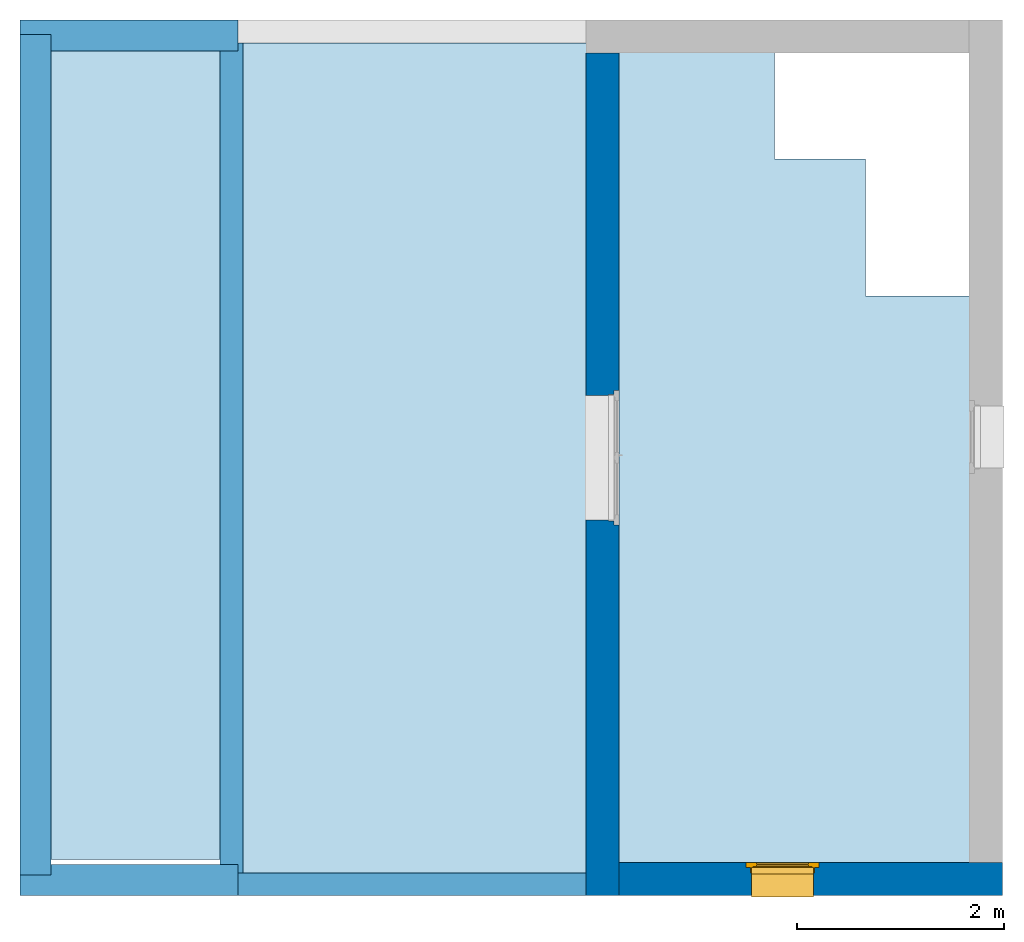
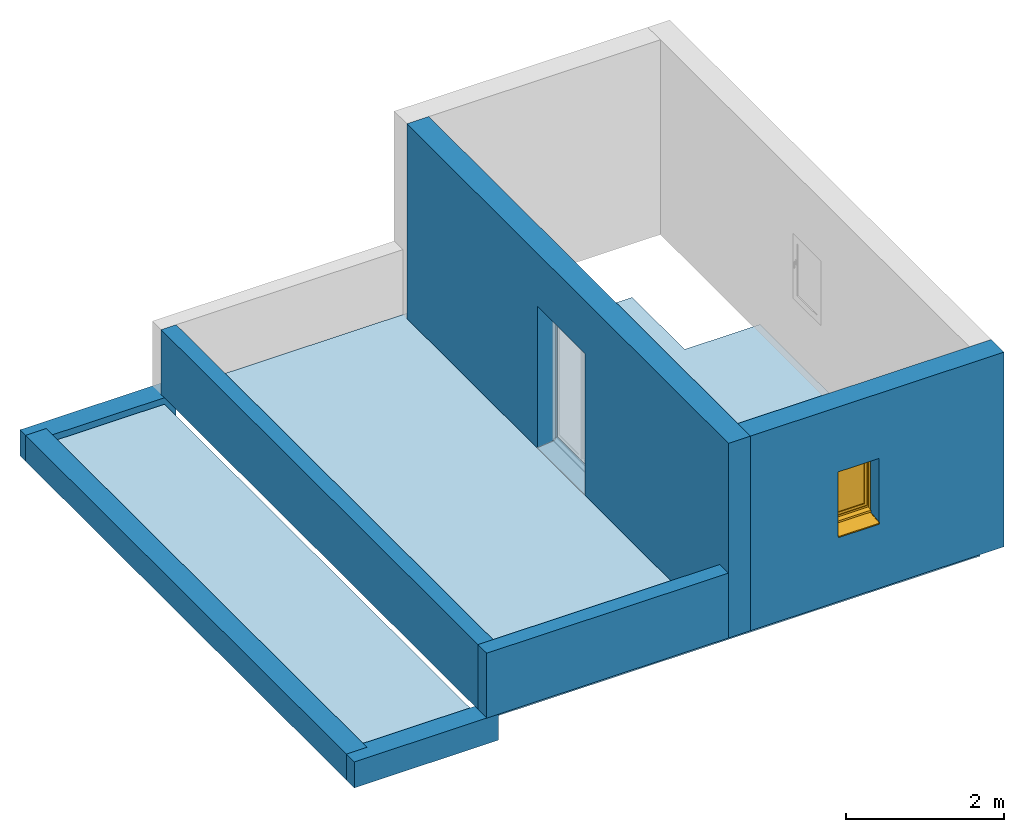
# One storey, part 1 of 3: 4 walls, 3 beams, 2 slabs, 1 window, 2 openings.
"""IFC2X3 building model written with IfcOpenShell, lengths in metres."""

from ifc_helpers import new_model, entity, si_unit, converted_unit, derived_unit, direction, frame, frame_2d, origin, place, context, subcontext, project, spatial, polyline, rectangle, outline, extrude, clip, bounded_halfspace, faceted_brep, source, transform, mapped, material, material_list, layer, layer_set, layer_usage, type_object, type_shapes, element, fill, save


model = new_model("IFC2X3")

# Units and contexts
model_context = context("Model", 3, precision=1e-05, world=origin(), true_north=direction((6.12303176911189e-17, 1.0)))
context_of_model = context(None, 3, precision=1e-05, world=origin(), true_north=direction((6.12303176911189e-17, 1.0)))
body_context = subcontext(model_context, "Body", "Model", "MODEL_VIEW")
ifc_project = project(units=[si_unit("LENGTHUNIT", "METRE"), si_unit("AREAUNIT", "SQUARE_METRE"), si_unit("VOLUMEUNIT", "CUBIC_METRE"), converted_unit("PLANEANGLEUNIT", "DEGREE", entity("IfcRatioMeasure", 0.0174532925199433), si_unit("PLANEANGLEUNIT", "RADIAN"), dimensions=[0, 0, 0, 0, 0, 0, 0]), si_unit("MASSUNIT", "GRAM", prefix="KILO"), si_unit("TIMEUNIT", "SECOND"), si_unit("FREQUENCYUNIT", "HERTZ"), si_unit("THERMODYNAMICTEMPERATUREUNIT", "DEGREE_CELSIUS"), derived_unit("THERMALTRANSMITTANCEUNIT", [(si_unit("MASSUNIT", "GRAM", prefix="KILO"), 1), (si_unit("THERMODYNAMICTEMPERATUREUNIT", "KELVIN"), -1), (si_unit("TIMEUNIT", "SECOND"), -3)]), derived_unit("VOLUMETRICFLOWRATEUNIT", [(si_unit("LENGTHUNIT", "METRE"), 3), (si_unit("TIMEUNIT", "SECOND"), -1)]), si_unit("ELECTRICCURRENTUNIT", "AMPERE"), si_unit("ELECTRICVOLTAGEUNIT", "VOLT"), si_unit("POWERUNIT", "WATT"), si_unit("FORCEUNIT", "NEWTON", prefix="KILO"), si_unit("ILLUMINANCEUNIT", "LUX"), si_unit("LUMINOUSFLUXUNIT", "LUMEN"), si_unit("LUMINOUSINTENSITYUNIT", "CANDELA"), si_unit("PRESSUREUNIT", "PASCAL")], contexts=[model_context, context_of_model])

# Site, building, storey
site_placement = place(None, origin())
site = spatial("IfcSite", under=ifc_project, at=site_placement, Name="Default", CompositionType="ELEMENT")
building_placement = place(site_placement, origin())
building = spatial("IfcBuilding", under=site, at=building_placement, CompositionType="ELEMENT")
storey_placement = place(building_placement, frame((0.0, 0.0, 3.0)))
storey = spatial("IfcBuildingStorey", under=building, at=storey_placement, Name="Niveau 1", CompositionType="ELEMENT", Elevation=2.99999999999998)

# Beams
ifc_material_1 = material(Name="Béton - Béton coulé sur place")
beam_1_placement = place(storey_placement, frame((-9.3024259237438, -3.07461312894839, 0.0), z_axis=(0.0, 0.0, 1.0), x_axis=(-1.0, 0.0, 0.0)))
element("IfcBeam", 1, at=beam_1_placement, inside=storey, material=ifc_material_1, Name="Poutre rectangulaire - Béton:300 x 600 mm", ObjectType="Poutre rectangulaire - Béton:300 x 600 mm", context=body_context, shape_type="Clipping", body=[
    clip(extrude(rectangle(XDim=0.4, YDim=0.3, at=frame_2d((0.0, 6.77236045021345e-15), x_axis=(1.0, 0.0))), frame((-0.0126999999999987, 0.0, -0.200000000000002), z_axis=(1.0, 0.0, 0.0), x_axis=(0.0, 0.0, -1.0)), (0.0, 0.0, 1.0), 2.1027), bounded_halfspace(frame((1.79, -0.199000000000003, -0.400000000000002), z_axis=(1.0, 0.0, 0.0), x_axis=(0.0, 1.0, 0.0)), False, frame((-0.0126999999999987, 0.0, -0.200000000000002), z_axis=(1.0, 0.0, 0.0), x_axis=(0.0, 0.0, -1.0)), polyline([(0.199999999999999, -0.0499999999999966), (-0.200000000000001, -0.0499999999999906), (-0.200000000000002, -0.149999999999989), (0.199999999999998, -0.149999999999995), (0.199999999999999, -0.0499999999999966)]))),
])
beam_2_placement = place(storey_placement, frame((-11.2424259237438, 5.06538687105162, 0.0)))
element("IfcBeam", 2, at=beam_2_placement, inside=storey, material=ifc_material_1, Name="Poutre rectangulaire - Béton:300 x 600 mm", ObjectType="Poutre rectangulaire - Béton:300 x 600 mm", context=body_context, shape_type="Clipping", body=[
    clip(extrude(rectangle(XDim=0.4, YDim=0.3, at=frame_2d((0.0, 7.03603841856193e-15), x_axis=(1.0, 0.0))), frame((-0.15, 0.0, -0.200000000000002), z_axis=(1.0, 0.0, 0.0), x_axis=(0.0, 0.0, -1.0)), (0.0, 0.0, 1.0), 2.1027), bounded_halfspace(frame((0.150000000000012, -7.941, -0.400000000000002), z_axis=(-1.0, 0.0, 0.0), x_axis=(0.0, -1.0, 0.0)), False, frame((-0.15, 0.0, -0.200000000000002), z_axis=(1.0, 0.0, 0.0), x_axis=(0.0, 0.0, -1.0)), polyline([(-0.2, 0.0100000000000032), (0.2, 0.00999999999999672), (0.199999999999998, -0.149999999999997), (-0.200000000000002, -0.149999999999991), (-0.2, 0.0100000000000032)]))),
])
beam_3_placement = place(storey_placement, frame((-11.2424259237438, 5.07538687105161, 0.0), z_axis=(0.0, 0.0, 1.0), x_axis=(0.0, -1.0, 0.0)))
element("IfcBeam", 3, at=beam_3_placement, inside=storey, material=ifc_material_1, Name="Poutre rectangulaire - Béton:300 x 600 mm", ObjectType="Poutre rectangulaire - Béton:300 x 600 mm", context=body_context, shape_type="SweptSolid", body=[
    extrude(rectangle(XDim=0.4, YDim=0.299999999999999, at=frame_2d((0.0, -1.08246744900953e-15), x_axis=(1.0, 0.0))), frame((0.0, 0.0, -0.200000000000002), z_axis=(1.0, 0.0, 0.0), x_axis=(0.0, 0.0, -1.0)), (0.0, 0.0, 1.0), 8.1),
])

# Slabs
ifc_material_2 = material(Name="Maçonnerie - Béton")
ifc_layer_1 = layer(ifc_material_2, 0.2)
ifc_layer_set_1 = layer_set([ifc_layer_1], Name="Sol:Dalle en béton - 250 mm 2")
ifc_layer_usage_1 = layer_usage(ifc_layer_set_1, "AXIS3", "POSITIVE", 0.0)
slab_1_placement = place(storey_placement, origin())
element("IfcSlab", 4, at=slab_1_placement, inside=storey, material=ifc_layer_usage_1, Name="Sol:Dalle en béton - 250 mm 2", ObjectType="Sol:Dalle en béton - 250 mm 2", PredefinedType="FLOOR", context=body_context, shape_type="SweptSolid", body=[
    extrude(rectangle(XDim=7.79999999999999, YDim=1.63000000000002, at=frame_2d((0.0, -3.77475828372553e-15), x_axis=(1.0, 0.0))), frame((-10.2774259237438, 1.02538687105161, -0.1), z_axis=(0.0, 0.0, -1.0), x_axis=(0.0, 1.0, 0.0)), (0.0, 0.0, 1.0), 0.2),
])
ifc_layer_usage_2 = layer_usage(ifc_layer_set_1, "AXIS3", "POSITIVE", 0.0)
slab_2_placement = place(storey_placement, origin())
element("IfcSlab", 5, at=slab_2_placement, inside=storey, material=ifc_layer_usage_2, Name="Sol:Dalle en béton - 250 mm 2", ObjectType="Sol:Dalle en béton - 250 mm 2", PredefinedType="FLOOR", context=body_context, shape_type="SweptSolid", body=[
    extrude(outline(polyline([(-5.10948805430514, -4.55613302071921), (2.89051194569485, -4.55613302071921), (2.89051194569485, 0.568399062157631), (1.77051194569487, 0.56839906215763), (1.77051194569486, 1.44386697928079), (0.448464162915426, 1.44386697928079), (0.448464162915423, 2.54386697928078), (-5.10948805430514, 2.54386697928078), (-5.10948805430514, -4.55613302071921)])), frame((-4.68629290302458, 2.10487492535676, 0.0), z_axis=(0.0, 0.0, -1.0), x_axis=(0.0, 1.0, 0.0)), (0.0, 0.0, 1.0), 0.2),
])

# Wall, opening, window
ifc_material_3 = material(Name="Maçonnerie - Enduit")
ifc_layer_2 = layer(ifc_material_3, 0.02)
ifc_material_4 = material(Name="Blocs béton manufacturés")
ifc_layer_3 = layer(ifc_material_4, 0.2)
ifc_material_5 = material(Name="Maçonnerie - Isolant")
ifc_layer_4 = layer(ifc_material_5, 0.1)
ifc_layer_set_2 = layer_set([ifc_layer_2, ifc_layer_3, ifc_layer_4], Name="Mur de base:Ext. Parpaing 20 + Isolant 10")
ifc_layer_usage_3 = layer_usage(ifc_layer_set_2, "AXIS2", "NEGATIVE", 0.16)
wall_type_1 = type_object("IfcWallType", Name="Mur de base:Ext. Parpaing 20 + Isolant 10", PredefinedType="NOTDEFINED")
wall_1_placement = place(storey_placement, frame((-1.9224259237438, -3.06461312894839, 0.0), z_axis=(0.0, 0.0, 1.0), x_axis=(-1.0, 0.0, 0.0)))
wall_1 = element("IfcWallStandardCase", 6, at=wall_1_placement, inside=storey, type_object=wall_type_1, material=ifc_layer_usage_3, Name="Mur de base:Ext. Parpaing 20 + Isolant 10", ObjectType="Mur de base:Ext. Parpaing 20 + Isolant 10", context=body_context, shape_type="SweptSolid", body=[
    extrude(rectangle(XDim=3.6957252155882, YDim=0.32, at=frame_2d((1.8478626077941, 0.0), x_axis=(-1.0, 0.0))), origin(), (0.0, 0.0, 1.0), 3.0),
])
opening_1_placement = place(wall_1_placement, frame((2.47, 0.5, 0.974039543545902), z_axis=(0.0, 0.0, 1.0), x_axis=(-1.0, 0.0, 0.0)))
opening_1 = element("IfcOpeningElement", 7, at=opening_1_placement, cuts=wall_1, Name="Mur de base:Ext. Parpaing 20 + Isolant 10", ObjectType="Opening", context=body_context, shape_type="Brep", body=[
    faceted_brep([(0.649999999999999, 0.580000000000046, 0.0759604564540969), (0.649999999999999, 0.559999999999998, 0.0759604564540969), (0.649999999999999, 0.559999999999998, 1.0259604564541), (0.649999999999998, 0.0, 1.0259604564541), (0.649999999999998, 0.0, 0.0), (0.649999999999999, 0.580000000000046, 0.060960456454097), (0.0500000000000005, 1.0, 0.0759604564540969), (0.05, 0.66, 0.0759604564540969), (0.05, 0.66, 1.0259604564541), (0.0500000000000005, 1.0, 1.0259604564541), (0.65, 1.0, 0.0759604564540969), (0.649999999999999, 0.66, 0.0759604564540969), (0.699999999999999, 0.66, 0.0759604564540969), (0.699999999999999, 0.610000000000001, 0.0759604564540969), (0.659999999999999, 0.610000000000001, 0.0759604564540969), (0.659999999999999, 0.559999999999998, 0.0759604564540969), (0.05, 0.580000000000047, 0.0759604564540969), (0.05, 0.559999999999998, 0.0759604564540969), (0.0399999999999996, 0.559999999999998, 0.0759604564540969), (0.0399999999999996, 0.610000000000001, 0.0759604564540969), (0.0, 0.610000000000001, 0.0759604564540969), (0.0, 0.66, 0.0759604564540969), (0.65, 1.0, 1.0259604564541), (0.05, 0.559999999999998, 1.0259604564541), (0.0499999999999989, 0.0, 1.0259604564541), (0.0499999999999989, 0.0, 0.0), (0.05, 0.580000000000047, 0.060960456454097), (0.699999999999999, 0.66, 1.0759604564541), (0.699999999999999, 0.610000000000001, 1.0759604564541), (0.0, 0.610000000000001, 1.0759604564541), (0.0399999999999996, 0.610000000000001, 1.0359604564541), (0.659999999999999, 0.610000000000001, 1.0359604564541), (0.659999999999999, 0.559999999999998, 1.0359604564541), (0.0399999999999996, 0.559999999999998, 1.0359604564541), (0.649999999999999, 0.66, 1.0259604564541), (0.0, 0.66, 1.0759604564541)], [[[0, 1, 2, 3, 4, 5]], [[6, 7, 8, 9]], [[10, 11, 12, 13, 14, 15, 1, 0, 16, 17, 18, 19, 20, 21, 7, 6]], [[10, 6, 9, 22]], [[3, 2, 23, 24]], [[3, 24, 25, 4]], [[4, 25, 26, 5]], [[5, 26, 16, 0]], [[12, 27, 28, 13]], [[13, 28, 29, 20, 19, 30, 31, 14]], [[14, 31, 32, 15]], [[15, 32, 33, 18, 17, 23, 2, 1]], [[11, 34, 8, 7, 21, 35, 27, 12]], [[27, 35, 29, 28]], [[30, 33, 32, 31]], [[29, 35, 21, 20]], [[19, 18, 33, 30]], [[9, 8, 34, 22]], [[24, 23, 17, 16, 26, 25]], [[22, 34, 11, 10]]]),
])
ifc_material_6 = material(Name="Fenêtre - Poignée")
ifc_material_7 = material(Name="Fenêtre - Appui")
ifc_material_8 = material(Name="Fenêtre - Vitrage")
ifc_material_9 = material(Name="Fenêtre - Cadre")
ifc_material_list_1 = material_list([ifc_material_6, ifc_material_7, ifc_material_8, ifc_material_9])
ifc_material_list_2 = material_list([ifc_material_6, ifc_material_7, ifc_material_8, ifc_material_9])
window_style = type_object("IfcWindowStyle", Name="0.60 m x 0.95 m - Appui en aluminium", ConstructionType="NOTDEFINED", OperationType="SINGLE_PANEL", ParameterTakesPrecedence=False, Sizeable=False, material=ifc_material_list_2)
shared_shape = source(origin(), body_context, "Body", "Brep", [
    faceted_brep([(0.0806460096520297, -0.66600000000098, 0.697994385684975), (0.08203392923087, -0.66600000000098, 0.696606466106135), (0.08203392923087, -0.66600000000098, 0.68529275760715), (0.0806676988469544, -0.66600000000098, 0.683926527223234), (0.0693323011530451, -0.66600000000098, 0.683926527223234), (0.0679660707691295, -0.66600000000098, 0.68529275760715), (0.0679660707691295, -0.66600000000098, 0.696606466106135), (0.0693539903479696, -0.66600000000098, 0.697994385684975), (0.0806460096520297, -0.678913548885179, 0.697994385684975), (0.08203392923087, -0.67833865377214, 0.696606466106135), (0.08203392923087, -0.69164600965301, 0.683299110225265), (0.08203392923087, -0.691646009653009, 0.595960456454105), (0.08203392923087, -0.680332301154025, 0.595960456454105), (0.08203392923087, -0.680332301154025, 0.67861281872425), (0.08203392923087, -0.673652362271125, 0.68529275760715), (0.0806676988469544, -0.673086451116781, 0.683926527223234), (0.0693323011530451, -0.673086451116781, 0.683926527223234), (0.0679660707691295, -0.673652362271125, 0.68529275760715), (0.0679660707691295, -0.680332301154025, 0.67861281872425), (0.0679660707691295, -0.680332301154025, 0.595960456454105), (0.0679660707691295, -0.691646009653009, 0.595960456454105), (0.0679660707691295, -0.69164600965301, 0.683299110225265), (0.0679660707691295, -0.67833865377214, 0.696606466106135), (0.0693539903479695, -0.678913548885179, 0.697994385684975), (0.0806460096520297, -0.69303392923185, 0.683874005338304), (0.0806676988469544, -0.678966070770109, 0.678046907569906), (0.0693323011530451, -0.678966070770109, 0.678046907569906), (0.0693539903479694, -0.69303392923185, 0.683874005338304), (0.0806460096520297, -0.69303392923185, 0.595960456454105), (0.0693539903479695, -0.69303392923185, 0.595960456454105), (0.0693323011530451, -0.678966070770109, 0.595960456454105), (0.0806676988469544, -0.678966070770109, 0.595960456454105)], [[[0, 1, 2, 3, 4, 5, 6, 7]], [[1, 0, 8, 9]], [[2, 1, 9, 10, 11, 12, 13, 14]], [[3, 2, 14, 15]], [[4, 3, 15, 16]], [[5, 4, 16, 17]], [[6, 5, 17, 18, 19, 20, 21, 22]], [[7, 6, 22, 23]], [[0, 7, 23, 8]], [[9, 8, 24, 10]], [[15, 14, 13, 25]], [[16, 15, 25, 26]], [[17, 16, 26, 18]], [[23, 22, 21, 27]], [[8, 23, 27, 24]], [[28, 29, 20, 19, 30, 31, 12, 11]], [[10, 24, 28, 11]], [[25, 13, 12, 31]], [[26, 25, 31, 30]], [[18, 26, 30, 19]], [[27, 21, 20, 29]], [[24, 27, 29, 28]]]),
    faceted_brep([(0.0820000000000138, -0.666000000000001, 0.715960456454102), (0.0679999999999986, -0.666000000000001, 0.715960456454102), (0.0629999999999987, -0.666000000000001, 0.710960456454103), (0.0629999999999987, -0.666000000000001, 0.640960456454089), (0.0679999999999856, -0.666000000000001, 0.635960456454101), (0.0820000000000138, -0.666000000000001, 0.635960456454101), (0.0869999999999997, -0.666000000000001, 0.640960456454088), (0.0869999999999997, -0.666000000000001, 0.710960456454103), (0.0820000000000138, -0.660000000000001, 0.715960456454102), (0.0869999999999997, -0.660000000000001, 0.710960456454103), (0.0869999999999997, -0.660000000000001, 0.640960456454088), (0.0820000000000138, -0.660000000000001, 0.635960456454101), (0.0679999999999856, -0.660000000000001, 0.635960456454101), (0.0629999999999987, -0.660000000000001, 0.640960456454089), (0.0629999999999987, -0.660000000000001, 0.710960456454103), (0.0679999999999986, -0.660000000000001, 0.715960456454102)], [[[0, 1, 2, 3, 4, 5, 6, 7]], [[8, 9, 10, 11, 12, 13, 14, 15]], [[1, 0, 8, 15]], [[2, 1, 15, 14]], [[3, 2, 14, 13]], [[4, 3, 13, 12]], [[5, 4, 12, 11]], [[6, 5, 11, 10]], [[7, 6, 10, 9]], [[0, 7, 9, 8]]]),
    faceted_brep([(0.649999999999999, -0.324999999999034, 0.0394140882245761), (0.649999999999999, -0.574999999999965, 0.0656901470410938), (0.649999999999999, -0.574999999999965, 0.0759604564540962), (0.649999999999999, -0.579999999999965, 0.0759604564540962), (0.649999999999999, -0.579999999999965, 0.0609604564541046), (0.649999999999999, -0.329999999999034, 0.0346843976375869), (0.649999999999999, -0.329999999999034, 0.0243838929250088), (0.649999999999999, -0.324999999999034, 0.0238583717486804), (0.0499999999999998, -0.324999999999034, 0.0394140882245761), (0.0499999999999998, -0.324999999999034, 0.0238583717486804), (0.0499999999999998, -0.329999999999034, 0.0243838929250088), (0.0499999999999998, -0.329999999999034, 0.0346843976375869), (0.0499999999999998, -0.579999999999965, 0.0609604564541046), (0.0499999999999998, -0.579999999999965, 0.0759604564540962), (0.0499999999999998, -0.574999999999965, 0.0759604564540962), (0.0499999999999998, -0.574999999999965, 0.0656901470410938)], [[[0, 1, 2, 3, 4, 5, 6, 7]], [[8, 9, 10, 11, 12, 13, 14, 15]], [[1, 0, 8, 15]], [[2, 1, 15, 14]], [[3, 2, 14, 13]], [[4, 3, 13, 12]], [[5, 4, 12, 11]], [[6, 5, 11, 10]], [[7, 6, 10, 9]], [[0, 7, 9, 8]]]),
    faceted_brep([(0.05, -0.324999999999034, 0.0408400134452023), (0.05, -0.324999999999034, 0.0394140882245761), (0.0499999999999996, -0.574999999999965, 0.0656901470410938), (0.0499999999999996, -0.574999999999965, 0.0707176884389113), (0.05, -0.328581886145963, 0.0448181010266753), (0.05, -0.326027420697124, 0.0435165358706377), (0.0549999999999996, -0.574999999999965, 0.0707176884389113), (0.0549999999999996, -0.574999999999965, 0.0656901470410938), (0.055, -0.324999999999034, 0.0394140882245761), (0.055, -0.324999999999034, 0.0408400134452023), (0.055, -0.326027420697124, 0.0435165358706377), (0.055, -0.328581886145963, 0.0448181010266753)], [[[0, 1, 2, 3, 4, 5]], [[6, 7, 8, 9, 10, 11]], [[2, 1, 8, 7]], [[3, 2, 7, 6]], [[4, 3, 6, 11]], [[4, 11, 10, 5]], [[10, 9, 0, 5]], [[1, 0, 9, 8]]]),
    faceted_brep([(0.645, -0.324999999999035, 0.0408400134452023), (0.645, -0.324999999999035, 0.0394140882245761), (0.644999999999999, -0.574999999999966, 0.0656901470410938), (0.644999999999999, -0.574999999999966, 0.0707176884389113), (0.645, -0.328581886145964, 0.0448181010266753), (0.645, -0.326027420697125, 0.0435165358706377), (0.649999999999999, -0.574999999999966, 0.0707176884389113), (0.649999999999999, -0.574999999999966, 0.0656901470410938), (0.65, -0.324999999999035, 0.0394140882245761), (0.65, -0.324999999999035, 0.0408400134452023), (0.65, -0.326027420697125, 0.0435165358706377), (0.65, -0.328581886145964, 0.0448181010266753)], [[[0, 1, 2, 3, 4, 5]], [[6, 7, 8, 9, 10, 11]], [[2, 1, 8, 7]], [[3, 2, 7, 6]], [[4, 3, 6, 11]], [[4, 11, 10, 5]], [[10, 9, 0, 5]], [[1, 0, 9, 8]]]),
    faceted_brep([(0.0999999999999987, -0.634000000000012, 0.175960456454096), (0.0999999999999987, -0.634000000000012, 0.975960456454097), (0.6, -0.634000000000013, 0.975960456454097), (0.6, -0.634000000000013, 0.175960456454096), (0.0999999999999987, -0.646000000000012, 0.175960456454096), (0.0999999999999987, -0.646000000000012, 0.975960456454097), (0.6, -0.646000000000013, 0.975960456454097), (0.6, -0.646000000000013, 0.175960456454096)], [[[0, 1, 2, 3]], [[1, 0, 4, 5]], [[3, 2, 6, 7]], [[0, 3, 7, 4]], [[4, 7, 6, 5]], [[2, 1, 5, 6]]]),
    faceted_brep([(0.099999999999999, -0.620000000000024, 0.975960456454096), (0.0999999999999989, -0.660000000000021, 0.975960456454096), (0.0999999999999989, -0.660000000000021, 0.175960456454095), (0.0999999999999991, -0.620000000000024, 0.175960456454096), (0.6, -0.660000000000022, 0.175960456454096), (0.6, -0.620000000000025, 0.175960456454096), (0.6, -0.660000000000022, 0.975960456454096), (0.649999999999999, -0.660000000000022, 0.125960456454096), (0.649999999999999, -0.660000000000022, 1.0259604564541), (0.0499999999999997, -0.660000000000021, 1.0259604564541), (0.0499999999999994, -0.660000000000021, 0.125960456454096), (0.6, -0.620000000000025, 0.975960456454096), (0.0499999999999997, -0.620000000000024, 0.125960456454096), (0.0499999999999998, -0.620000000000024, 1.0259604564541), (0.649999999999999, -0.620000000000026, 1.0259604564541), (0.649999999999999, -0.620000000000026, 0.125960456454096)], [[[0, 1, 2, 3]], [[3, 2, 4, 5]], [[2, 1, 6, 4], [7, 8, 9, 10]], [[5, 4, 6, 11]], [[5, 11, 0, 3], [12, 13, 14, 15]], [[9, 13, 12, 10]], [[10, 12, 15, 7]], [[7, 15, 14, 8]], [[11, 6, 1, 0]], [[8, 14, 13, 9]]], outer=[[True], [True], [False, True], [True], [False, True], [True], [True], [True], [True], [True]]),
    faceted_brep([(0.0, -0.660000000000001, 0.0759604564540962), (0.0, -0.610000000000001, 0.0759604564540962), (0.0499999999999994, -0.610000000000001, 0.0759604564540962), (0.0499999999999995, -0.560000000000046, 0.0759604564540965), (0.649999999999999, -0.560000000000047, 0.0759604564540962), (0.649999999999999, -0.610000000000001, 0.0759604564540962), (0.699999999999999, -0.610000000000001, 0.0759604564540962), (0.699999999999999, -0.660000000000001, 0.0759604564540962), (0.0, -0.660000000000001, 1.0759604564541), (0.0, -0.610000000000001, 1.0759604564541), (0.699999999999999, -0.610000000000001, 1.0759604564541), (0.649999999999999, -0.610000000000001, 0.1153365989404), (0.0499999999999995, -0.610000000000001, 0.115336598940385), (0.0649999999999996, -0.610000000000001, 1.0109604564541), (0.0649999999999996, -0.610000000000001, 0.140960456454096), (0.634999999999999, -0.610000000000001, 0.140960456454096), (0.634999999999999, -0.610000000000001, 1.0109604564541), (0.0499999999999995, -0.550000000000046, 0.0992596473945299), (0.0499999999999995, -0.550000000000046, 0.0709604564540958), (0.0499999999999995, -0.560000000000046, 0.0709604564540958), (0.649999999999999, -0.560000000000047, 0.0709604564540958), (0.649999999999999, -0.550000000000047, 0.0709604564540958), (0.649999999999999, -0.550000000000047, 0.0992596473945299), (0.699999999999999, -0.660000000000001, 1.0759604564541), (0.649999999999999, -0.660000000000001, 1.0259604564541), (0.649999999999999, -0.660000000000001, 0.125960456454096), (0.0499999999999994, -0.66, 0.125960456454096), (0.0499999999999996, -0.660000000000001, 1.0259604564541), (0.0649999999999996, -0.620000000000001, 1.0109604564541), (0.0649999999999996, -0.620000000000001, 0.140960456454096), (0.634999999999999, -0.620000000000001, 0.140960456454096), (0.634999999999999, -0.620000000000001, 1.0109604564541), (0.649999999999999, -0.620000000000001, 1.0259604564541), (0.0499999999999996, -0.620000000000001, 1.0259604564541), (0.0499999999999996, -0.620000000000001, 0.125960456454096), (0.649999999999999, -0.620000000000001, 0.125960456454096)], [[[0, 1, 2, 3, 4, 5, 6, 7]], [[1, 0, 8, 9]], [[1, 9, 10, 6, 5, 11, 12, 2], [13, 14, 15, 16]], [[12, 17, 18, 19, 3, 2]], [[3, 19, 20, 4]], [[4, 20, 21, 22, 11, 5]], [[6, 10, 23, 7]], [[0, 7, 23, 8], [24, 25, 26, 27]], [[13, 28, 29, 14]], [[29, 30, 15, 14]], [[31, 16, 15, 30]], [[17, 12, 11, 22]], [[32, 33, 34, 35], [28, 31, 30, 29]], [[34, 33, 27, 26]], [[26, 25, 35, 34]], [[24, 32, 35, 25]], [[18, 17, 22, 21]], [[19, 18, 21, 20]], [[13, 16, 31, 28]], [[33, 32, 24, 27]], [[10, 9, 8, 23]]]),
    faceted_brep([(0.0499999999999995, -0.559999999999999, 0.0759604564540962), (0.0499999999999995, -0.610000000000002, 0.0759604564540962), (0.0399999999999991, -0.610000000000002, 0.0759604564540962), (0.0399999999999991, -0.559999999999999, 0.0759604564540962), (0.0499999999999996, -0.559999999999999, 1.0259604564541), (0.0499999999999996, -0.610000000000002, 1.0259604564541), (0.649999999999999, -0.610000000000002, 1.0259604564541), (0.649999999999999, -0.610000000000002, 0.0759604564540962), (0.66, -0.610000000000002, 0.0759604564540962), (0.66, -0.610000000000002, 1.0359604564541), (0.0399999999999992, -0.610000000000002, 1.0359604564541), (0.0399999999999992, -0.559999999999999, 1.0359604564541), (0.66, -0.559999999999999, 1.0359604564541), (0.66, -0.559999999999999, 0.0759604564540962), (0.649999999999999, -0.559999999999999, 0.0759604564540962), (0.649999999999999, -0.559999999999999, 1.0259604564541)], [[[0, 1, 2, 3]], [[1, 0, 4, 5]], [[2, 1, 5, 6, 7, 8, 9, 10]], [[3, 2, 10, 11]], [[0, 3, 11, 12, 13, 14, 15, 4]], [[6, 15, 14, 7]], [[14, 13, 8, 7]], [[12, 9, 8, 13]], [[5, 4, 15, 6]], [[11, 10, 9, 12]]]),
])
type_shapes(window_style, [shared_shape])
window_placement = place(opening_1_placement, frame((0.699999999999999, 0.0, 0.0), z_axis=(0.0, 0.0, 1.0), x_axis=(-1.0, 0.0, 0.0)))
window = element("IfcWindow", 8, at=window_placement, inside=storey, type_object=window_style, material=ifc_material_list_1, Name="1 Vantail - Droit:0.60 m x 0.95 m - Appui en aluminium", ObjectType="0.60 m x 0.95 m - Appui en aluminium", OverallHeight=1.08, OverallWidth=0.699999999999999, context=body_context, shape_type="MappedRepresentation", body=[
    mapped(shared_shape, transform((0.0, 0.0, 0.0), scale=1.0)),
])
fill(opening_1, window)

# Wall, opening
ifc_layer_usage_4 = layer_usage(ifc_layer_set_2, "AXIS2", "NEGATIVE", 0.16)
wall_2_placement = place(storey_placement, frame((-5.77815113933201, -3.22461312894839, 0.0), z_axis=(0.0, 0.0, 1.0), x_axis=(0.0, 1.0, 0.0)))
wall_2 = element("IfcWallStandardCase", 9, at=wall_2_placement, inside=storey, type_object=wall_type_1, material=ifc_layer_usage_4, Name="Mur de base:Ext. Parpaing 20 + Isolant 10", ObjectType="Mur de base:Ext. Parpaing 20 + Isolant 10", context=body_context, shape_type="SweptSolid", body=[
    extrude(rectangle(XDim=8.12, YDim=0.320000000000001, at=frame_2d((4.06, 0.0), x_axis=(-1.0, 0.0))), origin(), (0.0, 0.0, 1.0), 3.0),
])
opening_2_placement = place(wall_2_placement, frame((3.57, 0.500000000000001, 0.0), z_axis=(0.0, 0.0, 1.0), x_axis=(0.0, -1.0, 0.0)))
element("IfcOpeningElement", 10, at=opening_2_placement, cuts=wall_2, Name="Mur de base:Ext. Parpaing 20 + Isolant 10", ObjectType="Opening", context=body_context, shape_type="Brep", body=[
    faceted_brep([(0.579999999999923, 0.0499999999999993, 0.0350000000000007), (0.559999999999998, 0.0499999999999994, 0.0350000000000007), (0.559999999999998, 0.0499999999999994, 2.185), (0.0, 0.0500000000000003, 2.185), (0.0, 0.0500000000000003, 0.0), (0.246997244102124, 0.0499999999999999, 0.0), (1.0, 1.25, 0.0350000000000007), (0.660000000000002, 1.25, 0.0350000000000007), (0.660000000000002, 1.25, 2.185), (1.0, 1.25, 2.185), (1.0, 0.0499999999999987, 0.0350000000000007), (0.660000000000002, 0.0499999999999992, 0.0350000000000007), (0.660000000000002, 0.0, 0.0350000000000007), (0.610000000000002, 0.0, 0.0350000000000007), (0.610000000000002, 0.0399999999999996, 0.0350000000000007), (0.559999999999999, 0.0399999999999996, 0.0350000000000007), (0.579999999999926, 1.25, 0.0350000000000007), (0.559999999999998, 1.25, 0.0350000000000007), (0.559999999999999, 1.26, 0.0350000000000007), (0.610000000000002, 1.26, 0.0350000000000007), (0.610000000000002, 1.3, 0.0350000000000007), (0.660000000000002, 1.3, 0.0350000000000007), (1.0, 0.0499999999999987, 2.185), (0.559999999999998, 1.25, 2.185), (0.0, 1.25, 2.185), (0.0, 1.25, 0.0), (0.246997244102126, 1.25, 0.0), (0.660000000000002, 0.0, 2.235), (0.610000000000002, 0.0, 2.235), (0.610000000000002, 1.3, 2.235), (0.610000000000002, 1.26, 2.195), (0.610000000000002, 0.0399999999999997, 2.195), (0.559999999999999, 0.0399999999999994, 2.195), (0.559999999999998, 1.26, 2.195), (0.660000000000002, 0.0499999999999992, 2.185), (0.660000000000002, 1.3, 2.235)], [[[0, 1, 2, 3, 4, 5]], [[6, 7, 8, 9]], [[10, 11, 12, 13, 14, 15, 1, 0, 16, 17, 18, 19, 20, 21, 7, 6]], [[10, 6, 9, 22]], [[3, 2, 23, 24]], [[3, 24, 25, 4]], [[4, 25, 26, 5]], [[5, 26, 16, 0]], [[12, 27, 28, 13]], [[13, 28, 29, 20, 19, 30, 31, 14]], [[14, 31, 32, 15]], [[15, 32, 33, 18, 17, 23, 2, 1]], [[11, 34, 8, 7, 21, 35, 27, 12]], [[27, 35, 29, 28]], [[30, 33, 32, 31]], [[29, 35, 21, 20]], [[19, 18, 33, 30]], [[9, 8, 34, 22]], [[24, 23, 17, 16, 26, 25]], [[22, 34, 11, 10]]]),
])

# Walls
ifc_layer_5 = layer(ifc_material_3, 0.02)
ifc_layer_6 = layer(ifc_material_4, 0.2)
ifc_layer_set_3 = layer_set([ifc_layer_5, ifc_layer_6], Name="Mur de base:Ext. Parpaing 20 + Isolant 11")
ifc_layer_usage_5 = layer_usage(ifc_layer_set_3, "AXIS2", "NEGATIVE", 0.11)
wall_type_2 = type_object("IfcWallType", Name="Mur de base:Ext. Parpaing 20 + Isolant 11", PredefinedType="STANDARD", material=ifc_layer_set_3)
wall_3_placement = place(storey_placement, frame((-5.93815113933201, -3.11461312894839, 0.0), z_axis=(0.0, 0.0, 1.0), x_axis=(-1.0, 0.0, 0.0)))
element("IfcWallStandardCase", 11, at=wall_3_placement, inside=storey, type_object=wall_type_2, material=ifc_layer_usage_5, Name="Mur de base:Ext. Parpaing 20 + Isolant 11", ObjectType="Mur de base:Ext. Parpaing 20 + Isolant 11", context=body_context, shape_type="SweptSolid", body=[
    extrude(rectangle(XDim=3.52427478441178, YDim=0.22, at=frame_2d((1.76213739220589, 6.93889390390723e-18), x_axis=(-1.0, 0.0))), origin(), (0.0, 0.0, 1.0), 1.0),
])
ifc_layer_usage_6 = layer_usage(ifc_layer_set_3, "AXIS2", "NEGATIVE", 0.11)
wall_4_placement = place(storey_placement, frame((-9.35242592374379, -3.00461312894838, 0.0), z_axis=(0.0, 0.0, 1.0), x_axis=(0.0, 1.0, 0.0)))
element("IfcWallStandardCase", 12, at=wall_4_placement, inside=storey, type_object=wall_type_2, material=ifc_layer_usage_6, Name="Mur de base:Ext. Parpaing 20 + Isolant 11", ObjectType="Mur de base:Ext. Parpaing 20 + Isolant 11", context=body_context, shape_type="SweptSolid", body=[
    extrude(rectangle(XDim=7.99999999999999, YDim=0.22, at=frame_2d((3.99999999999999, 0.0), x_axis=(-1.0, 0.0))), origin(), (0.0, 0.0, 1.0), 1.0),
])

save(model, "model.ifc")
